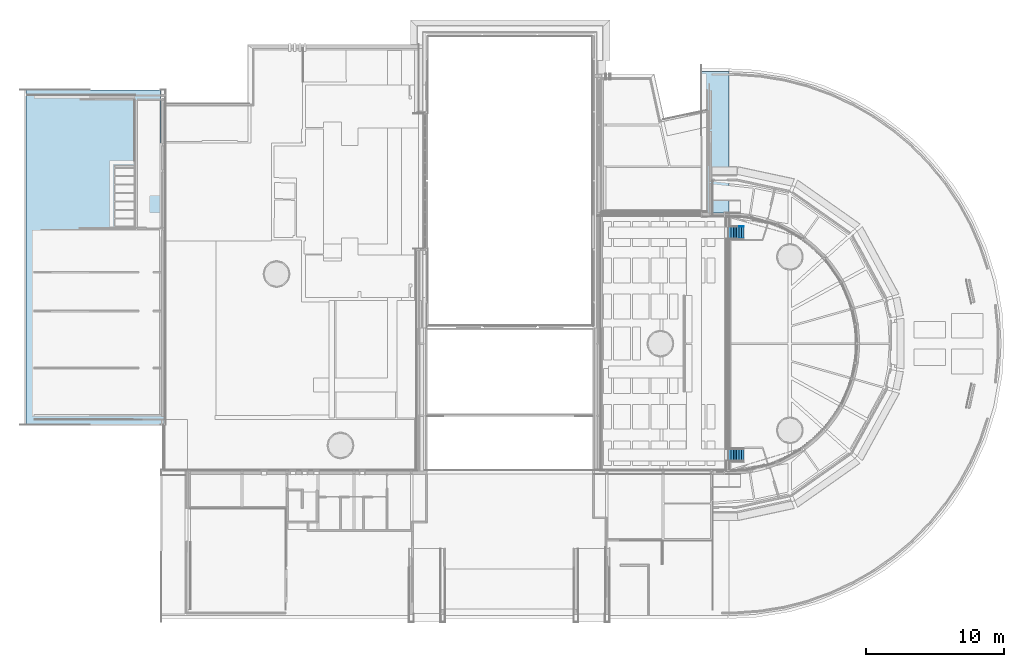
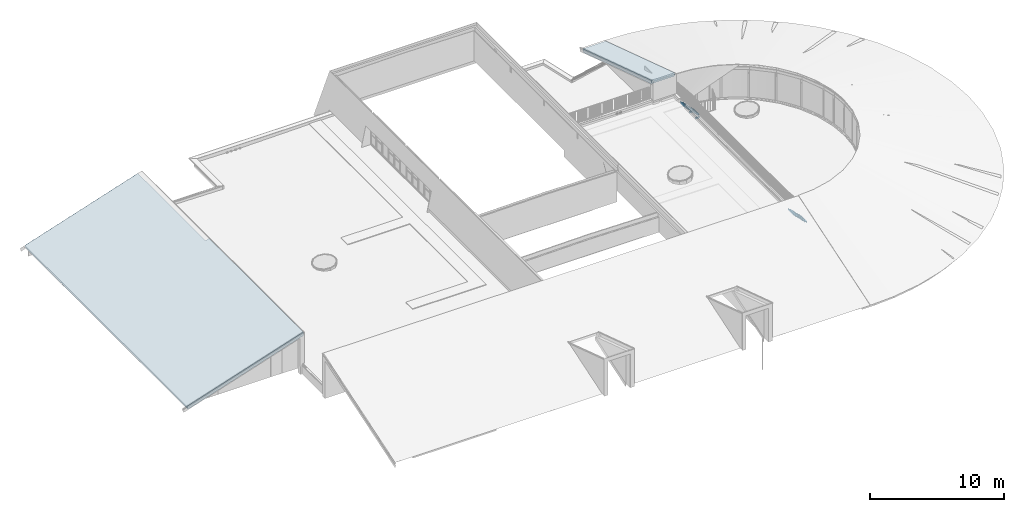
# One storey, part 43 of 66: 2 roofs, 2 stair flights, 1 stair, 3 elements without a shape of their own.
"""IFC2X3 building model written with IfcOpenShell, lengths in millimetres."""

from ifc_helpers import new_model, entity, si_unit, converted_unit, derived_unit, direction, frame, frame_2d, origin, origin_2d_with_axis, place, context, subcontext, project, spatial, polyline, circle_curve, parameter, trimmed, segment, composite_curve, rectangle, outline, extrude, faceted_brep, material, layer, layer_set, type_object, element, aggregate, save


model = new_model("IFC2X3")

# Units and contexts
model_context = context("Model", 3, precision=0.01, world=origin(), true_north=direction((6.12303176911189e-17, 1.0)))
body_context = subcontext(model_context, "Body", "Model", "MODEL_VIEW")
ifc_project = project(units=[si_unit("LENGTHUNIT", "METRE", prefix="MILLI"), si_unit("AREAUNIT", "SQUARE_METRE"), si_unit("VOLUMEUNIT", "CUBIC_METRE"), converted_unit("PLANEANGLEUNIT", "DEGREE", entity("IfcRatioMeasure", 0.0174532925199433), si_unit("PLANEANGLEUNIT", "RADIAN"), dimensions=[0, 0, 0, 0, 0, 0, 0]), si_unit("MASSUNIT", "GRAM", prefix="KILO"), derived_unit("MASSDENSITYUNIT", [(si_unit("MASSUNIT", "GRAM", prefix="KILO"), 1), (si_unit("LENGTHUNIT", "METRE"), -3)]), derived_unit("MOMENTOFINERTIAUNIT", [(si_unit("LENGTHUNIT", "METRE"), 4)]), si_unit("TIMEUNIT", "SECOND"), si_unit("FREQUENCYUNIT", "HERTZ"), si_unit("THERMODYNAMICTEMPERATUREUNIT", "DEGREE_CELSIUS"), derived_unit("THERMALTRANSMITTANCEUNIT", [(si_unit("MASSUNIT", "GRAM", prefix="KILO"), 1), (si_unit("THERMODYNAMICTEMPERATUREUNIT", "KELVIN"), -1), (si_unit("TIMEUNIT", "SECOND"), -3)]), derived_unit("VOLUMETRICFLOWRATEUNIT", [(si_unit("LENGTHUNIT", "METRE"), 3), (si_unit("TIMEUNIT", "SECOND"), -1)]), si_unit("ELECTRICCURRENTUNIT", "AMPERE"), si_unit("ELECTRICVOLTAGEUNIT", "VOLT"), si_unit("POWERUNIT", "WATT"), si_unit("FORCEUNIT", "NEWTON", prefix="KILO"), si_unit("ILLUMINANCEUNIT", "LUX"), si_unit("LUMINOUSFLUXUNIT", "LUMEN"), si_unit("LUMINOUSINTENSITYUNIT", "CANDELA"), derived_unit("USERDEFINED", [(si_unit("MASSUNIT", "GRAM", prefix="KILO"), -1), (si_unit("LENGTHUNIT", "METRE"), -2), (si_unit("TIMEUNIT", "SECOND"), 3), (si_unit("LUMINOUSFLUXUNIT", "LUMEN"), 1)]), derived_unit("LINEARVELOCITYUNIT", [(si_unit("LENGTHUNIT", "METRE"), 1), (si_unit("TIMEUNIT", "SECOND"), -1)]), si_unit("PRESSUREUNIT", "PASCAL"), derived_unit("USERDEFINED", [(si_unit("LENGTHUNIT", "METRE"), -2), (si_unit("MASSUNIT", "GRAM", prefix="KILO"), 1), (si_unit("TIMEUNIT", "SECOND"), -2)]), derived_unit("LINEARFORCEUNIT", [(si_unit("MASSUNIT", "GRAM", prefix="KILO"), 1), (si_unit("LENGTHUNIT", "METRE"), 1), (si_unit("TIMEUNIT", "SECOND"), -2), (si_unit("LENGTHUNIT", "METRE"), -1)]), derived_unit("PLANARFORCEUNIT", [(si_unit("MASSUNIT", "GRAM", prefix="KILO"), 1), (si_unit("LENGTHUNIT", "METRE"), 1), (si_unit("TIMEUNIT", "SECOND"), -2), (si_unit("LENGTHUNIT", "METRE"), -2)])], contexts=[model_context])

# Site, building, storey
site_placement = place(None, origin())
site = spatial("IfcSite", under=ifc_project, at=site_placement, Name="Default", CompositionType="ELEMENT")
building_placement = place(site_placement, origin())
building = spatial("IfcBuilding", under=site, at=building_placement, Name="-", CompositionType="ELEMENT")
storey_placement = place(building_placement, frame((0.0, 0.0, 3070.0)))
storey = spatial("IfcBuildingStorey", under=building, at=storey_placement, Name="01 eerste verdieping", CompositionType="ELEMENT", Elevation=3070.00000000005)

# Stair, stair flight
stair_1_placement = place(storey_placement, origin())
stair_1 = element("IfcStair", 1, at=stair_1_placement, inside=storey, Name="Assembled Stair:Stair", ObjectType="Assembled Stair:27_woningbouw", ShapeType="STRAIGHT_RUN_STAIR")
ifc_material_1 = material(Name="AL_31_Naaldhout Trap treden")
stair_flight_type_1 = type_object("IfcStairFlightType", Name="Non-Monolithic Run:50 mm Tread 10 mm Nosing 13 mm Riser", PredefinedType="STRAIGHT")
stair_flight_1_placement = place(stair_1_placement, origin())
stair_flight_1 = element("IfcStairFlight", 2, at=stair_flight_1_placement, type_object=stair_flight_type_1, material=ifc_material_1, Name="Assembled Stair:Stair:6459863 Run 1", ObjectType="Non-Monolithic Run:50 mm Tread 10 mm Nosing 13 mm Riser", NumberOfRiser=7, NumberOfTreads=6, RiserHeight=0.607424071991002, TreadLength=0.606955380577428, context=body_context, shape_type="SweptSolid", body=[
    extrude(outline(composite_curve([segment(trimmed(circle_curve(frame_2d((-74.0, 14.0), x_axis=(1.0, 0.0)), 9.99999999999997), [parameter(90.0000000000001)], [parameter(270.0)], True, "PARAMETER"), True, "CONTINUOUS"), segment(polyline([(-74.0, 4.0), (-74.0, -26.0)]), True, "CONTINUOUS"), segment(polyline([(-74.0, -26.0), (111.0, -26.0)]), True, "CONTINUOUS"), segment(polyline([(111.0, -26.0), (111.0, 24.0)]), True, "CONTINUOUS"), segment(polyline([(111.0, 24.0), (-74.0, 24.0)]), True, "CONTINUOUS")], self_intersect=False)), frame((51647.6203901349, 11130.9965964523, 401.142857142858), z_axis=(0.0, 1.0, 0.0), x_axis=(-1.0, 0.0, 0.0)), (0.0, 0.0, 1.0), 850.000000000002),
    extrude(rectangle(XDim=850.000000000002, YDim=12.4999999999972, at=frame_2d((0.0, 4.33164615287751e-12), x_axis=(1.0, 0.0))), frame((51715.3703901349, 11555.9965964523, 240.0), z_axis=(0.0, 0.0, 1.0), x_axis=(0.0, -1.0, 0.0)), (0.0, 0.0, 1.0), 135.142857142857),
    extrude(rectangle(XDim=850.000000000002, YDim=12.4999999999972, at=origin_2d_with_axis()), frame((51530.3703901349, 11555.9965964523, 375.142857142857), z_axis=(0.0, 0.0, 1.0), x_axis=(0.0, -1.0, 0.0)), (0.0, 0.0, 1.0), 185.142857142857),
    extrude(outline(composite_curve([segment(trimmed(circle_curve(frame_2d((-74.0, 14.0), x_axis=(1.0, 0.0)), 9.99999999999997), [parameter(90.0000000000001)], [parameter(270.0)], True, "PARAMETER"), True, "CONTINUOUS"), segment(polyline([(-74.0, 4.0), (-74.0, -26.0)]), True, "CONTINUOUS"), segment(polyline([(-74.0, -26.0), (111.0, -26.0)]), True, "CONTINUOUS"), segment(polyline([(111.0, -26.0), (111.0, 24.0)]), True, "CONTINUOUS"), segment(polyline([(111.0, 24.0), (-74.0, 24.0)]), True, "CONTINUOUS")], self_intersect=False)), frame((51462.6203901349, 11130.9965964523, 586.285714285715), z_axis=(0.0, 1.0, 0.0), x_axis=(-1.0, 0.0, 0.0)), (0.0, 0.0, 1.0), 850.0),
    extrude(rectangle(XDim=850.000000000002, YDim=12.4999999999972, at=origin_2d_with_axis()), frame((51345.3703901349, 11555.9965964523, 560.285714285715), z_axis=(0.0, 0.0, 1.0), x_axis=(0.0, -1.0, 0.0)), (0.0, 0.0, 1.0), 185.142857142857),
    extrude(outline(composite_curve([segment(trimmed(circle_curve(frame_2d((-74.0, 14.0), x_axis=(1.0, 0.0)), 9.99999999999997), [parameter(90.0000000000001)], [parameter(270.0)], True, "PARAMETER"), True, "CONTINUOUS"), segment(polyline([(-74.0, 4.0), (-74.0, -26.0)]), True, "CONTINUOUS"), segment(polyline([(-74.0, -26.0), (111.0, -26.0)]), True, "CONTINUOUS"), segment(polyline([(111.0, -26.0), (111.0, 24.0)]), True, "CONTINUOUS"), segment(polyline([(111.0, 24.0), (-74.0, 24.0)]), True, "CONTINUOUS")], self_intersect=False)), frame((51277.6203901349, 11130.9965964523, 771.428571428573), z_axis=(0.0, 1.0, 0.0), x_axis=(-1.0, 0.0, 0.0)), (0.0, 0.0, 1.0), 850.0),
    extrude(rectangle(XDim=850.000000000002, YDim=12.4999999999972, at=origin_2d_with_axis()), frame((51160.3703901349, 11555.9965964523, 745.428571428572), z_axis=(0.0, 0.0, 1.0), x_axis=(0.0, -1.0, 0.0)), (0.0, 0.0, 1.0), 185.142857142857),
    extrude(outline(composite_curve([segment(trimmed(circle_curve(frame_2d((-74.0, 14.0), x_axis=(1.0, 0.0)), 9.99999999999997), [parameter(90.0000000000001)], [parameter(270.0)], True, "PARAMETER"), True, "CONTINUOUS"), segment(polyline([(-74.0, 4.0), (-74.0, -26.0)]), True, "CONTINUOUS"), segment(polyline([(-74.0, -26.0), (111.0, -26.0)]), True, "CONTINUOUS"), segment(polyline([(111.0, -26.0), (111.0, 24.0)]), True, "CONTINUOUS"), segment(polyline([(111.0, 24.0), (-74.0, 24.0)]), True, "CONTINUOUS")], self_intersect=False)), frame((51092.6203901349, 11130.9965964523, 956.571428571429), z_axis=(0.0, 1.0, 0.0), x_axis=(-1.0, 0.0, 0.0)), (0.0, 0.0, 1.0), 850.0),
    extrude(rectangle(XDim=850.000000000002, YDim=12.4999999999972, at=origin_2d_with_axis()), frame((50975.3703901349, 11555.9965964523, 930.571428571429), z_axis=(0.0, 0.0, 1.0), x_axis=(0.0, -1.0, 0.0)), (0.0, 0.0, 1.0), 185.142857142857),
    extrude(outline(composite_curve([segment(trimmed(circle_curve(frame_2d((-74.0, 14.0), x_axis=(1.0, 0.0)), 9.99999999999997), [parameter(90.0000000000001)], [parameter(270.0)], True, "PARAMETER"), True, "CONTINUOUS"), segment(polyline([(-74.0, 4.0), (-74.0, -26.0)]), True, "CONTINUOUS"), segment(polyline([(-74.0, -26.0), (111.0, -26.0)]), True, "CONTINUOUS"), segment(polyline([(111.0, -26.0), (111.0, 24.0)]), True, "CONTINUOUS"), segment(polyline([(111.0, 24.0), (-74.0, 24.0)]), True, "CONTINUOUS")], self_intersect=False)), frame((50907.6203901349, 11130.9965964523, 1141.71428571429), z_axis=(0.0, 1.0, 0.0), x_axis=(-1.0, 0.0, 0.0)), (0.0, 0.0, 1.0), 850.0),
    extrude(rectangle(XDim=850.000000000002, YDim=12.4999999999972, at=origin_2d_with_axis()), frame((50790.3703901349, 11555.9965964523, 1115.71428571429), z_axis=(0.0, 0.0, 1.0), x_axis=(0.0, -1.0, 0.0)), (0.0, 0.0, 1.0), 185.142857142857),
    extrude(rectangle(XDim=850.000000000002, YDim=12.4999999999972, at=frame_2d((0.0, -4.33164615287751e-12), x_axis=(1.0, 0.0))), frame((50605.3703901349, 11555.9965964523, 1300.85714285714), z_axis=(0.0, 0.0, 1.0), x_axis=(0.0, -1.0, 0.0)), (0.0, 0.0, 1.0), 185.142857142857),
    extrude(outline(composite_curve([segment(trimmed(circle_curve(frame_2d((-74.0, 14.0), x_axis=(1.0, 0.0)), 9.99999999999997), [parameter(90.0000000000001)], [parameter(270.0)], True, "PARAMETER"), True, "CONTINUOUS"), segment(polyline([(-74.0, 4.0), (-74.0, -26.0)]), True, "CONTINUOUS"), segment(polyline([(-74.0, -26.0), (111.0, -26.0)]), True, "CONTINUOUS"), segment(polyline([(111.0, -26.0), (111.0, 24.0)]), True, "CONTINUOUS"), segment(polyline([(111.0, 24.0), (-74.0, 24.0)]), True, "CONTINUOUS")], self_intersect=False)), frame((50722.6203901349, 11130.9965964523, 1326.85714285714), z_axis=(0.0, 1.0, 0.0), x_axis=(-1.0, 0.0, 0.0)), (0.0, 0.0, 1.0), 850.0),
])
aggregate(stair_1, [stair_flight_1])

stair_2_placement = place(storey_placement, origin())
stair_2 = element("IfcStair", 3, at=stair_2_placement, inside=storey, Name="Assembled Stair:Stair", ObjectType="Assembled Stair:27_woningbouw", ShapeType="STRAIGHT_RUN_STAIR")
stair_flight_type_2 = type_object("IfcStairFlightType", Name="Non-Monolithic Run:50 mm Tread 10 mm Nosing 13 mm Riser", PredefinedType="STRAIGHT")
stair_flight_2_placement = place(stair_2_placement, origin())
stair_flight_2 = element("IfcStairFlight", 4, at=stair_flight_2_placement, type_object=stair_flight_type_2, material=ifc_material_1, Name="Assembled Stair:Stair:6460690 Run 1", ObjectType="Non-Monolithic Run:50 mm Tread 10 mm Nosing 13 mm Riser", NumberOfRiser=7, NumberOfTreads=6, RiserHeight=0.607424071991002, TreadLength=0.606955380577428, context=body_context, shape_type="SweptSolid", body=[
    extrude(outline(composite_curve([segment(trimmed(circle_curve(frame_2d((-74.0, 14.0), x_axis=(1.0, 0.0)), 9.99999999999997), [parameter(90.0000000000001)], [parameter(270.0)], True, "PARAMETER"), True, "CONTINUOUS"), segment(polyline([(-74.0, 4.0), (-74.0, -26.0)]), True, "CONTINUOUS"), segment(polyline([(-74.0, -26.0), (111.0, -26.0)]), True, "CONTINUOUS"), segment(polyline([(111.0, -26.0), (111.0, 24.0)]), True, "CONTINUOUS"), segment(polyline([(111.0, 24.0), (-74.0, 24.0)]), True, "CONTINUOUS")], self_intersect=False)), frame((51647.6203901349, 27230.9965964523, 401.142857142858), z_axis=(0.0, 1.0, 0.0), x_axis=(-1.0, 0.0, 0.0)), (0.0, 0.0, 1.0), 849.999999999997),
    extrude(rectangle(XDim=849.999999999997, YDim=12.4999999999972, at=frame_2d((0.0, -4.33164615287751e-12), x_axis=(1.0, 0.0))), frame((51715.3703901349, 27655.9965964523, 240.0), z_axis=(0.0, 0.0, 1.0), x_axis=(0.0, -1.0, 0.0)), (0.0, 0.0, 1.0), 135.142857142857),
    extrude(rectangle(XDim=849.999999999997, YDim=12.4999999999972, at=frame_2d((0.0, 4.33164615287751e-12), x_axis=(1.0, 0.0))), frame((51530.3703901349, 27655.9965964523, 375.142857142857), z_axis=(0.0, 0.0, 1.0), x_axis=(0.0, -1.0, 0.0)), (0.0, 0.0, 1.0), 185.142857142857),
    extrude(outline(composite_curve([segment(trimmed(circle_curve(frame_2d((-74.0, 14.0), x_axis=(1.0, 0.0)), 9.99999999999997), [parameter(90.0000000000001)], [parameter(270.0)], True, "PARAMETER"), True, "CONTINUOUS"), segment(polyline([(-74.0, 4.0), (-74.0, -26.0)]), True, "CONTINUOUS"), segment(polyline([(-74.0, -26.0), (111.0, -26.0)]), True, "CONTINUOUS"), segment(polyline([(111.0, -26.0), (111.0, 24.0)]), True, "CONTINUOUS"), segment(polyline([(111.0, 24.0), (-74.0, 24.0)]), True, "CONTINUOUS")], self_intersect=False)), frame((51462.6203901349, 27230.9965964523, 586.285714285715), z_axis=(0.0, 1.0, 0.0), x_axis=(-1.0, 0.0, 0.0)), (0.0, 0.0, 1.0), 849.999999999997),
    extrude(rectangle(XDim=849.999999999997, YDim=12.4999999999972, at=frame_2d((0.0, 4.33164615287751e-12), x_axis=(1.0, 0.0))), frame((51345.3703901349, 27655.9965964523, 560.285714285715), z_axis=(0.0, 0.0, 1.0), x_axis=(0.0, -1.0, 0.0)), (0.0, 0.0, 1.0), 185.142857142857),
    extrude(outline(composite_curve([segment(trimmed(circle_curve(frame_2d((-74.0, 14.0), x_axis=(1.0, 0.0)), 9.99999999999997), [parameter(90.0000000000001)], [parameter(270.0)], True, "PARAMETER"), True, "CONTINUOUS"), segment(polyline([(-74.0, 4.0), (-74.0, -26.0)]), True, "CONTINUOUS"), segment(polyline([(-74.0, -26.0), (111.0, -26.0)]), True, "CONTINUOUS"), segment(polyline([(111.0, -26.0), (111.0, 24.0)]), True, "CONTINUOUS"), segment(polyline([(111.0, 24.0), (-74.0, 24.0)]), True, "CONTINUOUS")], self_intersect=False)), frame((51277.6203901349, 27230.9965964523, 771.428571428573), z_axis=(0.0, 1.0, 0.0), x_axis=(-1.0, 0.0, 0.0)), (0.0, 0.0, 1.0), 849.999999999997),
    extrude(rectangle(XDim=849.999999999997, YDim=12.4999999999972, at=frame_2d((0.0, -4.33164615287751e-12), x_axis=(1.0, 0.0))), frame((51160.3703901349, 27655.9965964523, 745.428571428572), z_axis=(0.0, 0.0, 1.0), x_axis=(0.0, -1.0, 0.0)), (0.0, 0.0, 1.0), 185.142857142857),
    extrude(outline(composite_curve([segment(trimmed(circle_curve(frame_2d((-74.0, 14.0), x_axis=(1.0, 0.0)), 9.99999999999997), [parameter(90.0000000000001)], [parameter(270.0)], True, "PARAMETER"), True, "CONTINUOUS"), segment(polyline([(-74.0, 4.0), (-74.0, -26.0)]), True, "CONTINUOUS"), segment(polyline([(-74.0, -26.0), (111.0, -26.0)]), True, "CONTINUOUS"), segment(polyline([(111.0, -26.0), (111.0, 24.0)]), True, "CONTINUOUS"), segment(polyline([(111.0, 24.0), (-74.0, 24.0)]), True, "CONTINUOUS")], self_intersect=False)), frame((51092.6203901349, 27230.9965964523, 956.571428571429), z_axis=(0.0, 1.0, 0.0), x_axis=(-1.0, 0.0, 0.0)), (0.0, 0.0, 1.0), 849.999999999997),
    extrude(rectangle(XDim=849.999999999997, YDim=12.4999999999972, at=frame_2d((0.0, 4.33164615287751e-12), x_axis=(1.0, 0.0))), frame((50975.3703901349, 27655.9965964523, 930.571428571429), z_axis=(0.0, 0.0, 1.0), x_axis=(0.0, -1.0, 0.0)), (0.0, 0.0, 1.0), 185.142857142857),
    extrude(outline(composite_curve([segment(trimmed(circle_curve(frame_2d((-74.0, 14.0), x_axis=(1.0, 0.0)), 9.99999999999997), [parameter(90.0000000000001)], [parameter(270.0)], True, "PARAMETER"), True, "CONTINUOUS"), segment(polyline([(-74.0, 4.0), (-74.0, -26.0)]), True, "CONTINUOUS"), segment(polyline([(-74.0, -26.0), (111.0, -26.0)]), True, "CONTINUOUS"), segment(polyline([(111.0, -26.0), (111.0, 24.0)]), True, "CONTINUOUS"), segment(polyline([(111.0, 24.0), (-74.0, 24.0)]), True, "CONTINUOUS")], self_intersect=False)), frame((50907.6203901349, 27230.9965964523, 1141.71428571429), z_axis=(0.0, 1.0, 0.0), x_axis=(-1.0, 0.0, 0.0)), (0.0, 0.0, 1.0), 849.999999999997),
    extrude(rectangle(XDim=849.999999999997, YDim=12.4999999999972, at=frame_2d((0.0, 4.33164615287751e-12), x_axis=(1.0, 0.0))), frame((50790.3703901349, 27655.9965964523, 1115.71428571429), z_axis=(0.0, 0.0, 1.0), x_axis=(0.0, -1.0, 0.0)), (0.0, 0.0, 1.0), 185.142857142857),
    extrude(rectangle(XDim=849.999999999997, YDim=12.4999999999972, at=frame_2d((0.0, 4.33164615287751e-12), x_axis=(1.0, 0.0))), frame((50605.3703901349, 27655.9965964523, 1300.85714285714), z_axis=(0.0, 0.0, 1.0), x_axis=(0.0, -1.0, 0.0)), (0.0, 0.0, 1.0), 185.142857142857),
    extrude(outline(composite_curve([segment(trimmed(circle_curve(frame_2d((-74.0, 14.0), x_axis=(1.0, 0.0)), 9.99999999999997), [parameter(90.0000000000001)], [parameter(270.0)], True, "PARAMETER"), True, "CONTINUOUS"), segment(polyline([(-74.0, 4.0), (-74.0, -26.0)]), True, "CONTINUOUS"), segment(polyline([(-74.0, -26.0), (111.0, -26.0)]), True, "CONTINUOUS"), segment(polyline([(111.0, -26.0), (111.0, 24.0)]), True, "CONTINUOUS"), segment(polyline([(111.0, 24.0), (-74.0, 24.0)]), True, "CONTINUOUS")], self_intersect=False)), frame((50722.6203901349, 27230.9965964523, 1326.85714285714), z_axis=(0.0, 1.0, 0.0), x_axis=(-1.0, 0.0, 0.0)), (0.0, 0.0, 1.0), 849.999999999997),
])
aggregate(stair_2, [stair_flight_2])

# Stairs
stair_3_placement = place(storey_placement, origin())
stair_3 = element("IfcStair", 5, at=stair_3_placement, inside=storey, Name="Ondersteuning trap 1e verdieping buiten:Ondersteuning trap 1e verdieping buiten", ObjectType="Ondersteuning trap 1e verdieping buiten:Ondersteuning trap 1e verdieping buiten", ShapeType="NOTDEFINED")
stair_4_placement = place(stair_3_placement, origin())
stair_4 = element("IfcStair", 6, at=stair_4_placement, Name="Ondersteuning trap 1e verdieping buiten:Ondersteuning trap 1e verdieping buiten", ObjectType="Ondersteuning trap 1e verdieping buiten:Ondersteuning trap 1e verdieping buiten", ShapeType="NOTDEFINED", context=body_context, shape_type="SweptSolid", body=[
    extrude(rectangle(XDim=330.000000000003, YDim=50.0000000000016, at=frame_2d((4.33431068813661e-12, 2.16715534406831e-12), x_axis=(1.0, 0.0))), frame((51566.6203901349, 27205.9965964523, 100.0)), (0.0, 0.0, 1.0), 146.0),
    extrude(rectangle(XDim=330.000000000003, YDim=50.0000000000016, at=frame_2d((4.33431068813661e-12, 2.16715534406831e-12), x_axis=(1.0, 0.0))), frame((51566.6203901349, 28105.9965964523, 100.0)), (0.0, 0.0, 1.0), 146.0),
])
aggregate(stair_3, [stair_4])

# Roofs
ifc_material_2 = material(Name="AL_Multiplex")
ifc_layer_1 = layer(ifc_material_2, 18.0)
ifc_material_3 = material(Name="NLRS_m1_isolatie")
ifc_layer_2 = layer(ifc_material_3, 271.0)
ifc_material_4 = material(Name="j7_hout_spaanplaat")
ifc_layer_3 = layer(ifc_material_4, 10.0)
ifc_layer_set = layer_set([ifc_layer_1, ifc_layer_2, ifc_layer_3], Name="Basic Roof:27_Dakelement Rc 6,0m²K/W, aftimmerpakket")
roof_1_placement = place(storey_placement, frame((-284.847355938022, 13750.8169709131, -158.621079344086)))
element("IfcRoof", 7, at=roof_1_placement, inside=storey, material=ifc_layer_set, Name="Basic Roof:27_Dakelement Rc 6,0m²K/W, aftimmerpakket", ObjectType="Basic Roof:27_Dakelement Rc 6,0m²K/W, aftimmerpakket", ShapeType="NOTDEFINED", context=body_context, shape_type="Brep", body=[
    faceted_brep([(92.3960813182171, 24234.7851801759, 0.0), (9751.38805903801, 24234.7851801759, 3138.39673931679), (9751.38805903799, 18955.0777176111, 3138.39673931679), (7954.87762537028, 18955.0777176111, 2554.67511493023), (7852.37762537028, 18955.0777176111, 2521.37084606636), (338.669509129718, 18955.0777176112, 80.019087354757), (138.669509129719, 18955.0777176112, 15.0351481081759), (92.3960813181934, 18955.0777176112, 0.0), (0.0, 0.0, 284.365898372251), (10064.5973559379, 0.0, 3554.55181397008), (10064.5973559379, 14105.169605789, 3554.55181397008), (9751.38805903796, 14105.169605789, 3452.78394436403), (9751.38805903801, 24234.7851801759, 3452.78394436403), (0.0, 24234.7851801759, 284.365898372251), (92.3960813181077, 0.0, 0.0), (10064.5973559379, 0.0, 3240.16460892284), (47.2867077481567, 18955.0777176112, 138.83237640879), (47.2867077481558, 18785.0777176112, 138.832376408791), (92.3960813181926, 18785.0777176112, 0.0), (10064.5973559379, 579.003279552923, 3240.16460892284), (10064.5973559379, 14105.169605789, 3240.16460892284), (10064.5973559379, 14105.169605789, 3259.6848057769), (10064.5973559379, 14105.169605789, 3364.32589166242), (10064.5973559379, 14105.169605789, 3512.74357953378), (9815.84735593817, 14105.169605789, 3159.34083448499), (9751.38805903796, 14105.169605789, 3138.39673931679), (9751.38805903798, 18785.0777176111, 3138.39673931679), (9751.38805903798, 18785.0777176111, 3291.27268715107), (9751.38805903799, 18955.0777176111, 3291.27268715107), (7954.87762537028, 18785.0777176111, 2554.67511493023), (7852.37762537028, 18785.0777176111, 2521.37084606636), (338.669509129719, 18785.0777176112, 80.0190873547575), (138.669509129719, 18785.0777176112, 15.0351481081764)], [[[0, 1, 2, 3, 4, 5, 6, 7]], [[8, 9, 10, 11, 12, 13]], [[14, 15, 9, 8]], [[8, 13, 0, 7, 16, 17, 18, 14]], [[1, 0, 13, 12]], [[9, 15, 19, 20, 21, 22, 23, 10]], [[20, 24, 25, 11, 10, 23, 22, 21]], [[1, 12, 11, 25, 26, 27, 28, 2]], [[17, 27, 26, 29, 30, 31, 32, 18]], [[28, 16, 7, 6, 5, 4, 3, 2]], [[27, 17, 16, 28]], [[15, 14, 18, 32, 31, 30, 29, 26, 25, 24, 20, 19]]]),
])
roof_2_placement = place(storey_placement, frame((48656.6203901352, 29066.0597148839, -149.090167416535)))
element("IfcRoof", 8, at=roof_2_placement, inside=storey, material=ifc_layer_set, Name="Basic Roof:27_Dakelement Rc 6,0m²K/W, aftimmerpakket", ObjectType="Basic Roof:27_Dakelement Rc 6,0m²K/W, aftimmerpakket", ShapeType="NOTDEFINED", context=body_context, shape_type="Brep", body=[
    faceted_brep([(1989.42641672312, 0.0, 3301.7052515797), (1989.42641672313, 2357.61634179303, 2535.66926597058), (1989.42641672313, 2457.61634179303, 2503.17729634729), (1989.42641672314, 3466.04316430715, 2175.51955950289), (1989.42641672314, 3574.4636071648, 2140.29162214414), (1989.42641672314, 3591.58262445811, 2134.72931624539), (1989.42641672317, 10161.603897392, 0.0), (1989.42641672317, 10253.9999787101, 284.365898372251), (1989.42641672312, 0.0, 3616.09245662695), (0.0, 10161.603897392, 0.0), (0.0, 0.0, 3301.7052515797), (0.0, 0.0, 3616.09245662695), (0.0, 10253.9999787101, 284.365898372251)], [[[0, 1, 2, 3, 4, 5, 6, 7, 8]], [[9, 10, 11, 12]], [[6, 5, 4, 3, 2, 1, 0, 10, 9]], [[8, 7, 12, 11]], [[6, 9, 12, 7]], [[10, 0, 8, 11]]]),
])

save(model, "model.ifc")
